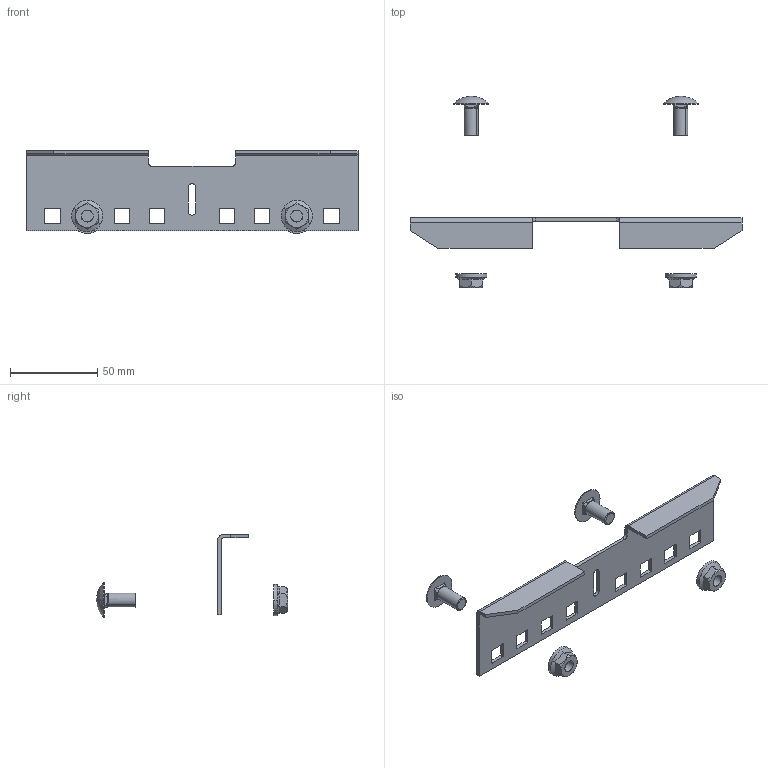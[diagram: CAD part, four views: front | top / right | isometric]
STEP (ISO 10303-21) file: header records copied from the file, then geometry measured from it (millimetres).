
FILE_DESCRIPTION(('Creo Elements/Direct Modeling STEP Export'),'2;1');
FILE_NAME('//pserver/office/EK/ME10-3D/3D-output/WPCH06-HDG KAT.stp','2019-08-14T 9:35:22',(''),(''),'PTC Creo Elements/Direct Modeling STEP processor for AP214 (Solid Model)','PTC Creo Elements/Direct Modeling 19.0C 15-Aug-2015 (C) Parametric Technology GmbH','');
FILE_SCHEMA(('AUTOMOTIVE_DESIGN { 1 0 10303 214 1 1 1 1 }'));
Length unit declared in the file: millimetre
Products named in the file (4): WPVH-P_60; SEMS_8.1; FRSV_8x16E; WPCH06-HDG_KAT
Assembly tree (5 placements, depth 2):
  WPCH06-HDG_KAT
    SEMS_8.1  x2
    FRSV_8x16E  x2
    WPVH-P_60
Bounding box: 190 x 109.5 x 47.5 mm (x, y, z)
Volume: 24690.6 mm3; surface area: 24809.8 mm2
Topology: 5 solids, 5 shells, 182 faces, 472 edges, 298 vertices
Faces by surface type: plane 78, cylinder 64, cone 36, sphere 4
Entity records: 5876 total; most frequent: CARTESIAN_POINT 2320, ORIENTED_EDGE 732, DIRECTION 682, EDGE_CURVE 366, VERTEX_POINT 237, AXIS2_PLACEMENT_3D 233, VECTOR 216, LINE 216
